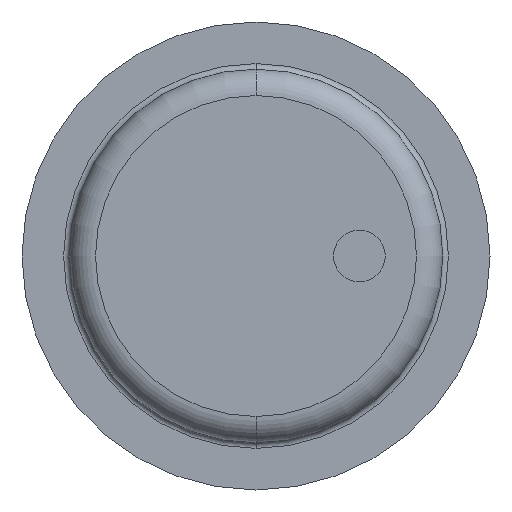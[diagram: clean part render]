
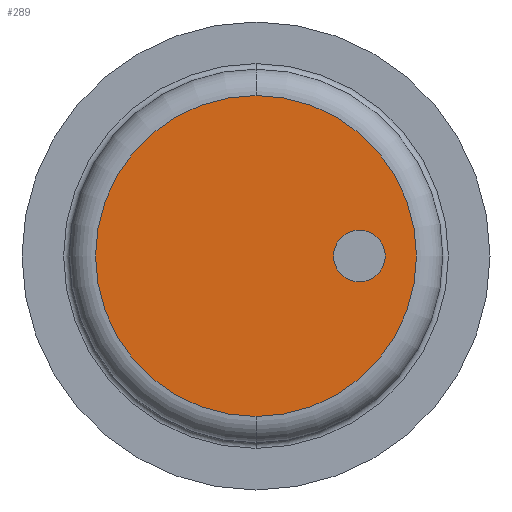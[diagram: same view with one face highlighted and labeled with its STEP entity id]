
A CAD part, front view. The second image highlights one B-rep face of the part: STEP entity #289.
In plain terms, the highlighted planar face has unit normal (0, -1, 0).
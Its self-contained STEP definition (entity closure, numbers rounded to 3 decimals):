
#289 = ADVANCED_FACE( '', ( #670, #671 ), #672, .T. );
#670 = FACE_BOUND( '', #1067, .T. );
#671 = FACE_OUTER_BOUND( '', #1068, .T. );
#672 = PLANE( '', #1069 );
#1067 = EDGE_LOOP( '', ( #2387, #2388 ) );
#1068 = EDGE_LOOP( '', ( #2389, #2390, #2391 ) );
#1069 = AXIS2_PLACEMENT_3D( '', #2392, #2393, #2394 );
#2387 = ORIENTED_EDGE( '', *, *, #2901, .T. );
#2388 = ORIENTED_EDGE( '', *, *, #2903, .T. );
#2389 = ORIENTED_EDGE( '', *, *, #2895, .F. );
#2390 = ORIENTED_EDGE( '', *, *, #2894, .F. );
#2391 = ORIENTED_EDGE( '', *, *, #2904, .F. );
#2392 = CARTESIAN_POINT( '', ( 142.688, -491., 0. ) );
#2393 = DIRECTION( '', ( 0., -1., 0. ) );
#2394 = DIRECTION( '', ( -1., 0., 0. ) );
#2894 = EDGE_CURVE( '', #3587, #3590, #3591, .T. );
#2895 = EDGE_CURVE( '', #3590, #3592, #3593, .T. );
#2901 = EDGE_CURVE( '', #3597, #3601, #3603, .T. );
#2903 = EDGE_CURVE( '', #3601, #3597, #3605, .T. );
#2904 = EDGE_CURVE( '', #3592, #3587, #3606, .T. );
#3587 = VERTEX_POINT( '', #4898 );
#3590 = VERTEX_POINT( '', #4901 );
#3591 = CIRCLE( '', #4902, 85.375 );
#3592 = VERTEX_POINT( '', #4903 );
#3593 = CIRCLE( '', #4904, 85.375 );
#3597 = VERTEX_POINT( '', #4908 );
#3601 = VERTEX_POINT( '', #4913 );
#3603 = CIRCLE( '', #4916, 13.75 );
#3605 = CIRCLE( '', #4918, 13.75 );
#3606 = CIRCLE( '', #4919, 85.375 );
#4898 = CARTESIAN_POINT( '', ( 100., -491., 85.375 ) );
#4901 = CARTESIAN_POINT( '', ( 185.375, -491., 0. ) );
#4902 = AXIS2_PLACEMENT_3D( '', #5835, #5836, #5837 );
#4903 = CARTESIAN_POINT( '', ( 100., -491., -85.375 ) );
#4904 = AXIS2_PLACEMENT_3D( '', #5838, #5839, #5840 );
#4908 = CARTESIAN_POINT( '', ( 168.75, -491., 0. ) );
#4913 = CARTESIAN_POINT( '', ( 141.25, -491., 0. ) );
#4916 = AXIS2_PLACEMENT_3D( '', #5852, #5853, #5854 );
#4918 = AXIS2_PLACEMENT_3D( '', #5858, #5859, #5860 );
#4919 = AXIS2_PLACEMENT_3D( '', #5861, #5862, #5863 );
#5835 = CARTESIAN_POINT( '', ( 100., -491., 0. ) );
#5836 = DIRECTION( '', ( 0., 1., 0. ) );
#5837 = DIRECTION( '', ( 1., 0., 0. ) );
#5838 = CARTESIAN_POINT( '', ( 100., -491., 0. ) );
#5839 = DIRECTION( '', ( 0., 1., 0. ) );
#5840 = DIRECTION( '', ( 1., 0., 0. ) );
#5852 = CARTESIAN_POINT( '', ( 155., -491., 0. ) );
#5853 = DIRECTION( '', ( 0., 1., 0. ) );
#5854 = DIRECTION( '', ( 1., 0., 0. ) );
#5858 = CARTESIAN_POINT( '', ( 155., -491., 0. ) );
#5859 = DIRECTION( '', ( 0., 1., 0. ) );
#5860 = DIRECTION( '', ( 1., 0., 0. ) );
#5861 = CARTESIAN_POINT( '', ( 100., -491., 0. ) );
#5862 = DIRECTION( '', ( 0., 1., 0. ) );
#5863 = DIRECTION( '', ( 1., 0., 0. ) );
